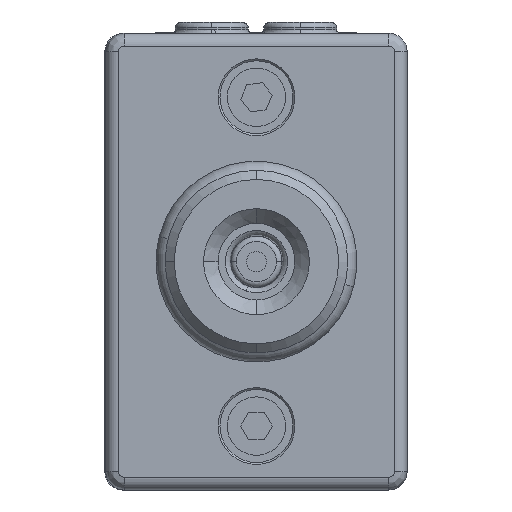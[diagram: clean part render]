
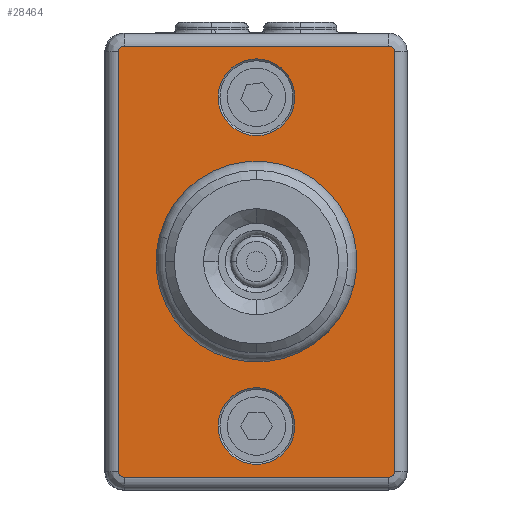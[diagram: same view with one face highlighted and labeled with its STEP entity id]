
A CAD part, left-side view. The second image highlights one B-rep face of the part: STEP entity #28464.
In plain terms, the highlighted planar face has unit normal (-1, 0, 0) as drawn and (0, 0, 1) by its records, which use the part's own axes.
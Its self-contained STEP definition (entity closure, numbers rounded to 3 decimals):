
#1049 = DIRECTION ( 'NONE',  ( 0., 0., 1. ) ) ;
#1092 = VERTEX_POINT ( 'NONE', #31098 ) ;
#1416 = EDGE_CURVE ( 'NONE', #79223, #54164, #91981, .T. ) ;
#3311 = DIRECTION ( 'NONE',  ( 0., -1., 0. ) ) ;
#4953 = DIRECTION ( 'NONE',  ( 0., 1., 0. ) ) ;
#5002 = ORIENTED_EDGE ( 'NONE', *, *, #78442, .T. ) ;
#6966 = CIRCLE ( 'NONE', #79471, 2.1 ) ;
#7925 = ORIENTED_EDGE ( 'NONE', *, *, #23688, .T. ) ;
#7992 = CARTESIAN_POINT ( 'NONE',  ( -6.9, 0., 4.5 ) ) ;
#8184 = CARTESIAN_POINT ( 'NONE',  ( 0., 0., 4.5 ) ) ;
#8607 = DIRECTION ( 'NONE',  ( 0., 0., -1. ) ) ;
#8635 = DIRECTION ( 'NONE',  ( 1., 0., 0. ) ) ;
#8876 = CARTESIAN_POINT ( 'NONE',  ( -9., -2.1, 4.5 ) ) ;
#8883 = EDGE_CURVE ( 'NONE', #60928, #56917, #41859, .T. ) ;
#9878 = VERTEX_POINT ( 'NONE', #38311 ) ;
#13216 = CARTESIAN_POINT ( 'NONE',  ( 11.1, 0., 4.5 ) ) ;
#13819 = CIRCLE ( 'NONE', #79524, 0.3 ) ;
#14365 = DIRECTION ( 'NONE',  ( -1., 0., 0. ) ) ;
#15088 = DIRECTION ( 'NONE',  ( 0., 0., 1. ) ) ;
#15346 = AXIS2_PLACEMENT_3D ( 'NONE', #63923, #1049, #72844 ) ;
#16284 = DIRECTION ( 'NONE',  ( 0., 0., -1. ) ) ;
#16416 = DIRECTION ( 'NONE',  ( 0., 0., 1. ) ) ;
#16478 = DIRECTION ( 'NONE',  ( -1., 0., 0. ) ) ;
#16823 = AXIS2_PLACEMENT_3D ( 'NONE', #57681, #8607, #90924 ) ;
#17519 = DIRECTION ( 'NONE',  ( 0., -1., 0. ) ) ;
#17751 = EDGE_LOOP ( 'NONE', ( #74735, #86440, #75341 ) ) ;
#17819 = DIRECTION ( 'NONE',  ( 1., 0., 0. ) ) ;
#18100 = EDGE_CURVE ( 'NONE', #78082, #79223, #6966, .T. ) ;
#18691 = ORIENTED_EDGE ( 'NONE', *, *, #90793, .F. ) ;
#19108 = EDGE_CURVE ( 'NONE', #103041, #62731, #33898, .T. ) ;
#19369 = AXIS2_PLACEMENT_3D ( 'NONE', #30720, #16416, #14365 ) ;
#19907 = CIRCLE ( 'NONE', #68774, 4. ) ;
#19908 = VERTEX_POINT ( 'NONE', #36655 ) ;
#21540 = ORIENTED_EDGE ( 'NONE', *, *, #77841, .T. ) ;
#23292 = DIRECTION ( 'NONE',  ( 0., 0., 1. ) ) ;
#23688 = EDGE_CURVE ( 'NONE', #48749, #52274, #25820, .T. ) ;
#25440 = DIRECTION ( 'NONE',  ( 0., 0., -1. ) ) ;
#25511 = ORIENTED_EDGE ( 'NONE', *, *, #92527, .T. ) ;
#25820 = LINE ( 'NONE', #40139, #92239 ) ;
#26208 = CARTESIAN_POINT ( 'NONE',  ( -9., 0., 4.5 ) ) ;
#28012 = ORIENTED_EDGE ( 'NONE', *, *, #8883, .T. ) ;
#28464 = ADVANCED_FACE ( 'NONE', ( #88161, #98152, #80264, #96601 ), #90228, .T. ) ;
#28626 = DIRECTION ( 'NONE',  ( 0., 0., 1. ) ) ;
#29759 = ORIENTED_EDGE ( 'NONE', *, *, #19108, .T. ) ;
#30720 = CARTESIAN_POINT ( 'NONE',  ( -11.5, -7.25, 4.5 ) ) ;
#30748 = AXIS2_PLACEMENT_3D ( 'NONE', #41086, #16284, #48490 ) ;
#31098 = CARTESIAN_POINT ( 'NONE',  ( 11.8, -7.25, 4.5 ) ) ;
#33341 = DIRECTION ( 'NONE',  ( 0., 0., -1. ) ) ;
#33898 = LINE ( 'NONE', #67649, #47604 ) ;
#34478 = ORIENTED_EDGE ( 'NONE', *, *, #72059, .T. ) ;
#35168 = CARTESIAN_POINT ( 'NONE',  ( -11.8, 7.25, 4.5 ) ) ;
#35523 = CIRCLE ( 'NONE', #62523, 0.3 ) ;
#36285 = CARTESIAN_POINT ( 'NONE',  ( -9., 0., 4.5 ) ) ;
#36655 = CARTESIAN_POINT ( 'NONE',  ( -4., 0., 4.5 ) ) ;
#36812 = CARTESIAN_POINT ( 'NONE',  ( 0., 0., 4.5 ) ) ;
#36913 = VERTEX_POINT ( 'NONE', #44292 ) ;
#38311 = CARTESIAN_POINT ( 'NONE',  ( 11.5, -7.55, 4.5 ) ) ;
#38975 = EDGE_LOOP ( 'NONE', ( #29759, #86366, #66066, #85429, #104389, #66867, #7925, #21540 ) ) ;
#40139 = CARTESIAN_POINT ( 'NONE',  ( 11.5, 7.55, 4.5 ) ) ;
#40389 = AXIS2_PLACEMENT_3D ( 'NONE', #8184, #15088, #40411 ) ;
#40411 = DIRECTION ( 'NONE',  ( 1., 0., 0. ) ) ;
#41086 = CARTESIAN_POINT ( 'NONE',  ( 9., 0., 4.5 ) ) ;
#41814 = CARTESIAN_POINT ( 'NONE',  ( 9., 0., 4.5 ) ) ;
#41859 = CIRCLE ( 'NONE', #99180, 2.1 ) ;
#42395 = EDGE_CURVE ( 'NONE', #68308, #48749, #70416, .T. ) ;
#42477 = CIRCLE ( 'NONE', #30748, 2.1 ) ;
#44292 = CARTESIAN_POINT ( 'NONE',  ( 4., 0., 4.5 ) ) ;
#45230 = VECTOR ( 'NONE', #4953, 1000. ) ;
#47077 = LINE ( 'NONE', #63442, #53967 ) ;
#47604 = VECTOR ( 'NONE', #17519, 1000. ) ;
#48490 = DIRECTION ( 'NONE',  ( 1., 0., 0. ) ) ;
#48749 = VERTEX_POINT ( 'NONE', #93968 ) ;
#50828 = CARTESIAN_POINT ( 'NONE',  ( 11.5, 7.25, 4.5 ) ) ;
#52274 = VERTEX_POINT ( 'NONE', #67171 ) ;
#53967 = VECTOR ( 'NONE', #71345, 1000. ) ;
#54164 = VERTEX_POINT ( 'NONE', #8876 ) ;
#55429 = CARTESIAN_POINT ( 'NONE',  ( -11.5, -7.55, 4.5 ) ) ;
#56866 = DIRECTION ( 'NONE',  ( 0., 0., -1. ) ) ;
#56917 = VERTEX_POINT ( 'NONE', #64697 ) ;
#57681 = CARTESIAN_POINT ( 'NONE',  ( -9., 0., 4.5 ) ) ;
#57938 = DIRECTION ( 'NONE',  ( 0., 0., -1. ) ) ;
#58653 = DIRECTION ( 'NONE',  ( 1., 0., 0. ) ) ;
#59286 = EDGE_CURVE ( 'NONE', #62731, #102534, #70057, .T. ) ;
#60928 = VERTEX_POINT ( 'NONE', #66957 ) ;
#62523 = AXIS2_PLACEMENT_3D ( 'NONE', #79279, #23292, #94055 ) ;
#62731 = VERTEX_POINT ( 'NONE', #67138 ) ;
#63442 = CARTESIAN_POINT ( 'NONE',  ( -11.5, -7.55, 4.5 ) ) ;
#63923 = CARTESIAN_POINT ( 'NONE',  ( 0., 0., 4.5 ) ) ;
#64064 = EDGE_CURVE ( 'NONE', #1092, #68308, #85718, .T. ) ;
#64697 = CARTESIAN_POINT ( 'NONE',  ( 6.9, 0., 4.5 ) ) ;
#65754 = EDGE_CURVE ( 'NONE', #102534, #9878, #47077, .T. ) ;
#66066 = ORIENTED_EDGE ( 'NONE', *, *, #65754, .T. ) ;
#66867 = ORIENTED_EDGE ( 'NONE', *, *, #42395, .T. ) ;
#66885 = CIRCLE ( 'NONE', #87101, 2.1 ) ;
#66957 = CARTESIAN_POINT ( 'NONE',  ( 9., -2.1, 4.5 ) ) ;
#67138 = CARTESIAN_POINT ( 'NONE',  ( -11.8, -7.25, 4.5 ) ) ;
#67171 = CARTESIAN_POINT ( 'NONE',  ( -11.5, 7.55, 4.5 ) ) ;
#67649 = CARTESIAN_POINT ( 'NONE',  ( -11.8, 7.25, 4.5 ) ) ;
#68308 = VERTEX_POINT ( 'NONE', #79369 ) ;
#68774 = AXIS2_PLACEMENT_3D ( 'NONE', #36812, #69012, #77443 ) ;
#69012 = DIRECTION ( 'NONE',  ( 0., 0., -1. ) ) ;
#69627 = EDGE_LOOP ( 'NONE', ( #25511, #18691 ) ) ;
#70057 = CIRCLE ( 'NONE', #19369, 0.3 ) ;
#70416 = CIRCLE ( 'NONE', #75432, 0.3 ) ;
#70420 = CARTESIAN_POINT ( 'NONE',  ( 11.8, -7.25, 4.5 ) ) ;
#71345 = DIRECTION ( 'NONE',  ( 1., 0., 0. ) ) ;
#72059 = EDGE_CURVE ( 'NONE', #56917, #80880, #66885, .T. ) ;
#72844 = DIRECTION ( 'NONE',  ( 1., 0., 0. ) ) ;
#74735 = ORIENTED_EDGE ( 'NONE', *, *, #18100, .T. ) ;
#74963 = CARTESIAN_POINT ( 'NONE',  ( -11.1, 0., 4.5 ) ) ;
#75111 = DIRECTION ( 'NONE',  ( 0., 0., 1. ) ) ;
#75341 = ORIENTED_EDGE ( 'NONE', *, *, #77552, .T. ) ;
#75432 = AXIS2_PLACEMENT_3D ( 'NONE', #50828, #75111, #8635 ) ;
#75908 = CIRCLE ( 'NONE', #16823, 2.1 ) ;
#77305 = EDGE_LOOP ( 'NONE', ( #34478, #5002, #28012 ) ) ;
#77443 = DIRECTION ( 'NONE',  ( 1., 0., 0. ) ) ;
#77552 = EDGE_CURVE ( 'NONE', #54164, #78082, #75908, .T. ) ;
#77841 = EDGE_CURVE ( 'NONE', #52274, #103041, #35523, .T. ) ;
#78082 = VERTEX_POINT ( 'NONE', #74963 ) ;
#78442 = EDGE_CURVE ( 'NONE', #80880, #60928, #42477, .T. ) ;
#78951 = EDGE_CURVE ( 'NONE', #9878, #1092, #13819, .T. ) ;
#79223 = VERTEX_POINT ( 'NONE', #7992 ) ;
#79279 = CARTESIAN_POINT ( 'NONE',  ( -11.5, 7.25, 4.5 ) ) ;
#79369 = CARTESIAN_POINT ( 'NONE',  ( 11.8, 7.25, 4.5 ) ) ;
#79471 = AXIS2_PLACEMENT_3D ( 'NONE', #26208, #56866, #90071 ) ;
#79524 = AXIS2_PLACEMENT_3D ( 'NONE', #100943, #28626, #3311 ) ;
#80264 = FACE_BOUND ( 'NONE', #69627, .T. ) ;
#80880 = VERTEX_POINT ( 'NONE', #13216 ) ;
#85429 = ORIENTED_EDGE ( 'NONE', *, *, #78951, .T. ) ;
#85718 = LINE ( 'NONE', #70420, #45230 ) ;
#85899 = CIRCLE ( 'NONE', #40389, 4. ) ;
#86366 = ORIENTED_EDGE ( 'NONE', *, *, #59286, .T. ) ;
#86440 = ORIENTED_EDGE ( 'NONE', *, *, #1416, .T. ) ;
#87101 = AXIS2_PLACEMENT_3D ( 'NONE', #41814, #25440, #16478 ) ;
#88148 = DIRECTION ( 'NONE',  ( -1., 0., 0. ) ) ;
#88161 = FACE_BOUND ( 'NONE', #77305, .T. ) ;
#90071 = DIRECTION ( 'NONE',  ( -1., 0., 0. ) ) ;
#90228 = PLANE ( 'NONE',  #15346 ) ;
#90793 = EDGE_CURVE ( 'NONE', #36913, #19908, #85899, .T. ) ;
#90924 = DIRECTION ( 'NONE',  ( 1., 0., 0. ) ) ;
#91865 = CARTESIAN_POINT ( 'NONE',  ( 9., 0., 4.5 ) ) ;
#91981 = CIRCLE ( 'NONE', #95394, 2.1 ) ;
#92239 = VECTOR ( 'NONE', #88148, 1000. ) ;
#92527 = EDGE_CURVE ( 'NONE', #36913, #19908, #19907, .T. ) ;
#93968 = CARTESIAN_POINT ( 'NONE',  ( 11.5, 7.55, 4.5 ) ) ;
#94055 = DIRECTION ( 'NONE',  ( 0., 1., 0. ) ) ;
#95394 = AXIS2_PLACEMENT_3D ( 'NONE', #36285, #57938, #17819 ) ;
#96601 = FACE_OUTER_BOUND ( 'NONE', #38975, .T. ) ;
#98152 = FACE_BOUND ( 'NONE', #17751, .T. ) ;
#99180 = AXIS2_PLACEMENT_3D ( 'NONE', #91865, #33341, #58653 ) ;
#100943 = CARTESIAN_POINT ( 'NONE',  ( 11.5, -7.25, 4.5 ) ) ;
#102534 = VERTEX_POINT ( 'NONE', #55429 ) ;
#103041 = VERTEX_POINT ( 'NONE', #35168 ) ;
#104389 = ORIENTED_EDGE ( 'NONE', *, *, #64064, .T. ) ;
